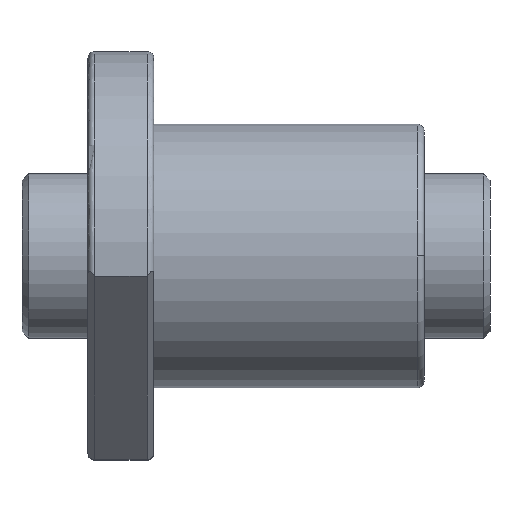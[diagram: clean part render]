
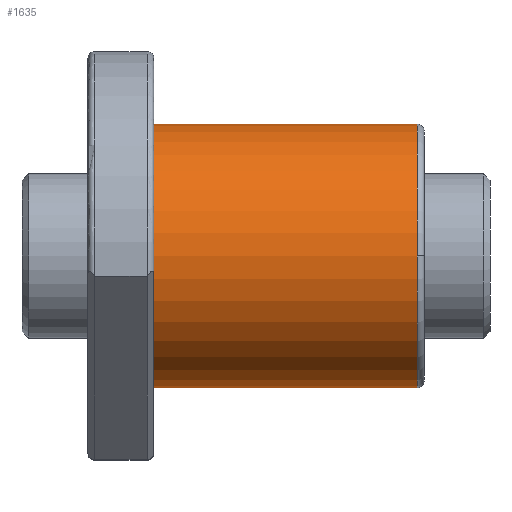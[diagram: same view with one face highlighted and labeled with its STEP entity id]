
A CAD part, front view. The second image highlights one B-rep face of the part: STEP entity #1635.
In plain terms, the highlighted cylindrical face has radius 20 mm (diameter 40 mm), a partial arc.
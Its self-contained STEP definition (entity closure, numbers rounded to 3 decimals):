
#5 = LINE ( 'NONE', #1041, #583 ) ;
#10 = DIRECTION ( 'NONE',  ( 1., 0., 0. ) ) ;
#133 = CARTESIAN_POINT ( 'NONE',  ( 107.569, 0., 20. ) ) ;
#329 = AXIS2_PLACEMENT_3D ( 'NONE', #2922, #2606, #1855 ) ;
#381 = DIRECTION ( 'NONE',  ( 0., 0., 1. ) ) ;
#471 = ORIENTED_EDGE ( 'NONE', *, *, #2310, .T. ) ;
#583 = VECTOR ( 'NONE', #2880, 1000. ) ;
#832 = CARTESIAN_POINT ( 'NONE',  ( 10., 0., 20. ) ) ;
#1041 = CARTESIAN_POINT ( 'NONE',  ( 107.569, 0., -20. ) ) ;
#1059 = ORIENTED_EDGE ( 'NONE', *, *, #1669, .T. ) ;
#1213 = CARTESIAN_POINT ( 'NONE',  ( 50., 0., -20. ) ) ;
#1314 = ORIENTED_EDGE ( 'NONE', *, *, #1397, .T. ) ;
#1325 = CARTESIAN_POINT ( 'NONE',  ( 107.569, 0., 0. ) ) ;
#1372 = VERTEX_POINT ( 'NONE', #832 ) ;
#1397 = EDGE_CURVE ( 'NONE', #1864, #1372, #3079, .T. ) ;
#1403 = DIRECTION ( 'NONE',  ( -1., 0., 0. ) ) ;
#1527 = CIRCLE ( 'NONE', #329, 20. ) ;
#1538 = CARTESIAN_POINT ( 'NONE',  ( 50., -20., 0. ) ) ;
#1635 = ADVANCED_FACE ( 'NONE', ( #3414 ), #4624, .T. ) ;
#1669 = EDGE_CURVE ( 'NONE', #1804, #1864, #1527, .T. ) ;
#1723 = EDGE_CURVE ( 'NONE', #1372, #4096, #2439, .T. ) ;
#1804 = VERTEX_POINT ( 'NONE', #1538 ) ;
#1855 = DIRECTION ( 'NONE',  ( 0., 0., 1. ) ) ;
#1864 = VERTEX_POINT ( 'NONE', #2770 ) ;
#2159 = VECTOR ( 'NONE', #2298, 1000. ) ;
#2298 = DIRECTION ( 'NONE',  ( -1., 0., 0. ) ) ;
#2310 = EDGE_CURVE ( 'NONE', #3434, #1804, #3938, .T. ) ;
#2439 = CIRCLE ( 'NONE', #2929, 20. ) ;
#2606 = DIRECTION ( 'NONE',  ( -1., 0., 0. ) ) ;
#2770 = CARTESIAN_POINT ( 'NONE',  ( 50., 0., 20. ) ) ;
#2880 = DIRECTION ( 'NONE',  ( -1., 0., 0. ) ) ;
#2922 = CARTESIAN_POINT ( 'NONE',  ( 50., 0., 0. ) ) ;
#2929 = AXIS2_PLACEMENT_3D ( 'NONE', #4043, #10, #381 ) ;
#2958 = AXIS2_PLACEMENT_3D ( 'NONE', #3573, #1403, #3987 ) ;
#2982 = ORIENTED_EDGE ( 'NONE', *, *, #4543, .F. ) ;
#3079 = LINE ( 'NONE', #133, #2159 ) ;
#3120 = ORIENTED_EDGE ( 'NONE', *, *, #1723, .T. ) ;
#3351 = EDGE_LOOP ( 'NONE', ( #2982, #471, #1059, #1314, #3120 ) ) ;
#3363 = CARTESIAN_POINT ( 'NONE',  ( 10., 0., -20. ) ) ;
#3414 = FACE_OUTER_BOUND ( 'NONE', #3351, .T. ) ;
#3434 = VERTEX_POINT ( 'NONE', #1213 ) ;
#3573 = CARTESIAN_POINT ( 'NONE',  ( 50., 0., 0. ) ) ;
#3675 = DIRECTION ( 'NONE',  ( -1., 0., 0. ) ) ;
#3938 = CIRCLE ( 'NONE', #2958, 20. ) ;
#3987 = DIRECTION ( 'NONE',  ( 0., 0., 1. ) ) ;
#4001 = AXIS2_PLACEMENT_3D ( 'NONE', #1325, #3675, #4058 ) ;
#4043 = CARTESIAN_POINT ( 'NONE',  ( 10., 0., 0. ) ) ;
#4058 = DIRECTION ( 'NONE',  ( 0., 0., 1. ) ) ;
#4096 = VERTEX_POINT ( 'NONE', #3363 ) ;
#4543 = EDGE_CURVE ( 'NONE', #3434, #4096, #5, .T. ) ;
#4624 = CYLINDRICAL_SURFACE ( 'NONE', #4001, 20. ) ;
